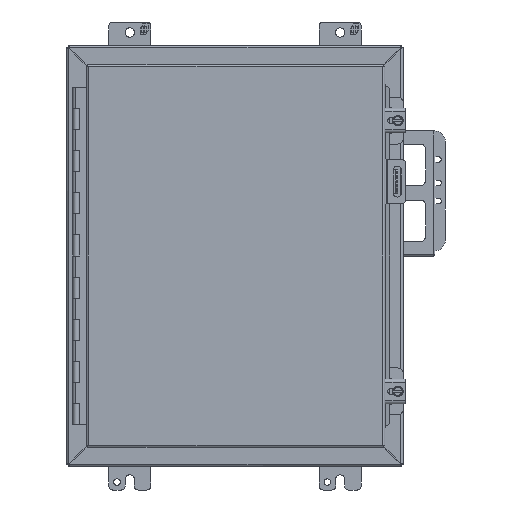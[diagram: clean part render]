
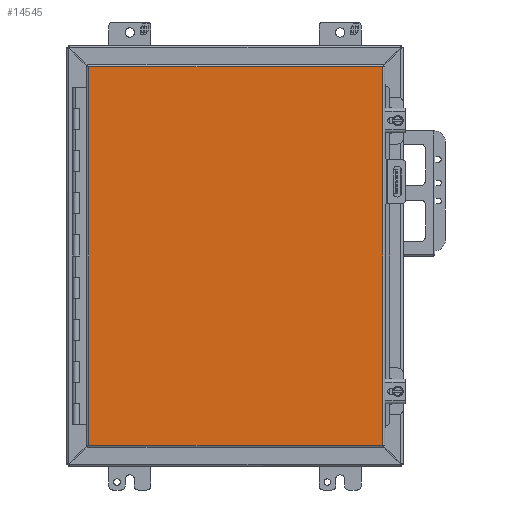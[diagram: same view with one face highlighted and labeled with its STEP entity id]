
A CAD part, front view. The second image highlights one B-rep face of the part: STEP entity #14545.
In plain terms, the highlighted planar face has unit normal (0, -1, 0).
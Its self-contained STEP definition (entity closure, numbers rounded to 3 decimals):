
#2783=ORIENTED_EDGE('',*,*,#6331,.T.);
#2784=ORIENTED_EDGE('',*,*,#6332,.T.);
#2785=ORIENTED_EDGE('',*,*,#6333,.T.);
#2786=ORIENTED_EDGE('',*,*,#6334,.T.);
#6331=EDGE_CURVE('',#8207,#8208,#9544,.T.);
#6332=EDGE_CURVE('',#8208,#8209,#9545,.T.);
#6333=EDGE_CURVE('',#8209,#8210,#9546,.T.);
#6334=EDGE_CURVE('',#8210,#8207,#9547,.T.);
#8207=VERTEX_POINT('',#21639);
#8208=VERTEX_POINT('',#21640);
#8209=VERTEX_POINT('',#21642);
#8210=VERTEX_POINT('',#21644);
#9544=LINE('',#21638,#10937);
#9545=LINE('',#21641,#10938);
#9546=LINE('',#21643,#10939);
#9547=LINE('',#21645,#10940);
#10937=VECTOR('',#17635,1000.);
#10938=VECTOR('',#17636,1000.);
#10939=VECTOR('',#17637,1000.);
#10940=VECTOR('',#17638,1000.);
#12174=EDGE_LOOP('',(#2783,#2784,#2785,#2786));
#13107=FACE_BOUND('',#12174,.T.);
#13939=PLANE('',#15621);
#14545=ADVANCED_FACE('',(#13107),#13939,.T.);
#15621=AXIS2_PLACEMENT_3D('',#21637,#17633,#17634);
#17633=DIRECTION('',(0.,-1.,0.));
#17634=DIRECTION('',(0.,0.,-1.));
#17635=DIRECTION('',(0.,0.,-1.));
#17636=DIRECTION('',(1.,0.,0.));
#17637=DIRECTION('',(0.,0.,1.));
#17638=DIRECTION('',(-1.,0.,0.));
#21637=CARTESIAN_POINT('',(-177.444,0.,-228.46));
#21638=CARTESIAN_POINT('',(-177.444,0.,228.46));
#21639=CARTESIAN_POINT('',(-177.444,0.,228.46));
#21640=CARTESIAN_POINT('',(-177.444,0.,-228.46));
#21641=CARTESIAN_POINT('',(-177.444,0.,-228.46));
#21642=CARTESIAN_POINT('',(177.444,0.,-228.46));
#21643=CARTESIAN_POINT('',(177.444,0.,-228.46));
#21644=CARTESIAN_POINT('',(177.444,0.,228.46));
#21645=CARTESIAN_POINT('',(177.444,0.,228.46));
